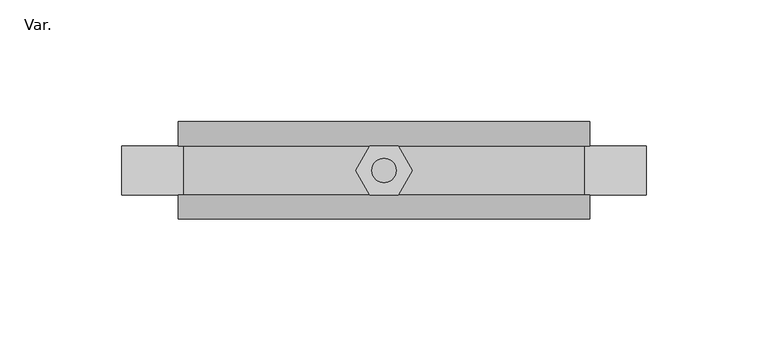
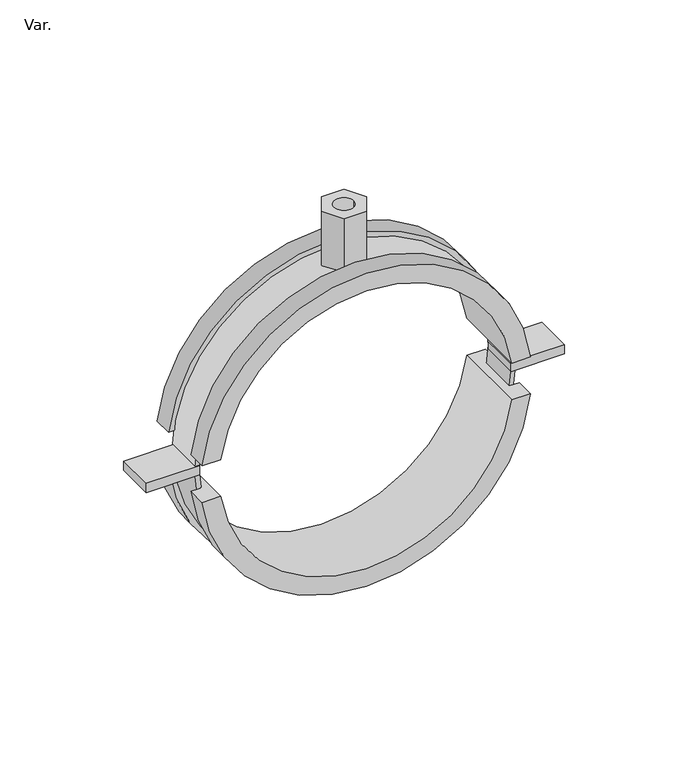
"""IFC4 building model written with IfcOpenShell, lengths in millimetres: pipe fitting geometry, AmancoWavin_ConexõesdeTubos_EsgotoSilentiumAbraçadeiraH_Ecoat : Var.."""

from ifc_helpers import new_model, si_unit, point, frame, origin, origin_2d, place, context, project, spatial, polyline, circle_curve, trimmed, segment, composite_curve, outline, extrude, source, transform, mapped, element, save
from ifc_brep_helpers import plane_surface, cylinder_surface, revolved_surface, advanced_brep


def var_25763102(model_context):
    return source(origin(), model_context, "Body", "SolidModel", [
        advanced_brep(
        [(74.8348181, 20.0, 10.0), (-74.8348181, 20.0, 10.0), (-84.4097151, 20.0, 10.0), (84.4097151, 20.0, 10.0), (74.8348181, -20.0, 10.0), (84.4097151, -20.0, 10.0), (-84.4097151, -20.0, 10.0), (-74.8348181, -20.0, 10.0), (-84.4097151, -10.0, 10.0), (-79.3725393, -10.0, 10.0), (-79.3725393, 10.0, 10.0), (-84.4097151, 10.0, 10.0), (84.4097151, 10.0, 10.0), (84.4097151, -10.0, 10.0), (79.3725393, 10.0, 10.0), (79.3725393, -10.0, 10.0)],
        [
            (0, 1, circle_curve(frame((0.0, 20.0, 0.0), z_axis=(0.0, -1.0, 0.0), x_axis=(-1.0, 0.0, 0.0)), 75.5)),
            (1, 2),
            (2, 3, circle_curve(frame((0.0, 20.0, 0.0), z_axis=(0.0, 1.0, 0.0), x_axis=(-1.0, 0.0, 0.0)), 85.0)),
            (3, 0),
            (4, 5),
            (5, 6, circle_curve(frame((0.0, -20.0, 0.0), z_axis=(0.0, -1.0, 0.0), x_axis=(-1.0, 0.0, 0.0)), 85.0)),
            (6, 7),
            (7, 4, circle_curve(frame((0.0, -20.0, 0.0), z_axis=(0.0, 1.0, 0.0), x_axis=(-1.0, 0.0, 0.0)), 75.5)),
            (0, 4),
            (7, 1),
            (6, 8),
            (8, 9),
            (9, 10),
            (10, 11),
            (11, 2),
            (11, 12, circle_curve(frame((0.0, 10.0, 0.0), z_axis=(0.0, 1.0, 0.0), x_axis=(-1.0, 0.0, 0.0)), 85.0)),
            (12, 3),
            (5, 13),
            (13, 8, circle_curve(frame((0.0, -10.0, 0.0), z_axis=(0.0, -1.0, 0.0), x_axis=(-1.0, 0.0, 0.0)), 85.0)),
            (12, 14),
            (14, 15),
            (15, 13),
            (15, 9, circle_curve(frame((0.0, -10.0, 0.0), z_axis=(0.0, -1.0, 0.0), x_axis=(1.0, 0.0, 0.0)), 80.0)),
            (10, 14, circle_curve(frame((0.0, 10.0, 0.0), z_axis=(0.0, 1.0, 0.0), x_axis=(1.0, 0.0, 0.0)), 80.0)),
        ],
        [
            plane_surface(frame((-75.5, 20.0, 0.0), z_axis=(0.0, 1.0, 0.0), x_axis=(0.0, 0.0, -1.0))),
            plane_surface(frame((-75.5, -20.0, 0.0), z_axis=(0.0, -1.0, 0.0), x_axis=(0.0, 0.0, 1.0))),
            revolved_surface(polyline([(-75.5, -20.0, 0.0), (-75.5, 20.0, 0.0)]), (0.0, -20.0, 0.0), (0.0, -1.0, 0.0)),
            plane_surface(frame((-74.8348181, 20.0, 10.0), z_axis=(0.0, 0.0, -1.0), x_axis=(0.0, -1.0, 0.0))),
            cylinder_surface(frame((0.0, -20.0, 0.0), z_axis=(0.0, 1.0, 0.0), x_axis=(-1.0, 0.0, 0.0)), 85.0),
            plane_surface(frame((84.4097151, 20.0, 10.0), z_axis=(0.0, 0.0, -1.0), x_axis=(0.0, -1.0, 0.0))),
            plane_surface(frame((85.0, -10.0, 0.0), z_axis=(0.0, 1.0, 0.0), x_axis=(0.0, 0.0, 1.0))),
            plane_surface(frame((85.0, 10.0, 0.0), z_axis=(0.0, -1.0, 0.0), x_axis=(0.0, 0.0, -1.0))),
            cylinder_surface(frame((0.0, 0.0, 0.0), z_axis=(0.0, 1.0, 0.0), x_axis=(1.0, 0.0, 0.0)), 80.0),
        ],
        [
            (0, [[1, 2, 3, 4]]),
            (1, [[5, 6, 7, 8]]),
            (2, [[-1, 9, -8, 10]]),
            (3, [[-2, -10, -7, 11, 12, 13, 14, 15]]),
            (4, [[-3, -15, 16, 17]]),
            (4, [[-6, 18, 19, -11]]),
            (5, [[-4, -17, 20, 21, 22, -18, -5, -9]]),
            (6, [[23, -12, -19, -22]]),
            (7, [[24, -20, -16, -14]]),
            (8, [[-23, -21, -24, -13]]),
        ],
    ),
        advanced_brep(
        [(-84.4097151, 20.0, -10.0), (-74.8348181, 20.0, -10.0), (74.8348181, 20.0, -10.0), (84.4097151, 20.0, -10.0), (-84.4097151, -20.0, -10.0), (84.4097151, -20.0, -10.0), (74.8348181, -20.0, -10.0), (-74.8348181, -20.0, -10.0), (-84.4097151, 10.0, -10.0), (-79.3725393, 10.0, -10.0), (-79.3725393, -10.0, -10.0), (-84.4097151, -10.0, -10.0), (84.4097151, -10.0, -10.0), (79.3725393, -10.0, -10.0), (79.3725393, 10.0, -10.0), (84.4097151, 10.0, -10.0)],
        [
            (0, 1),
            (1, 2, circle_curve(frame((0.0, 20.0, 0.0), z_axis=(0.0, -1.0, 0.0), x_axis=(-1.0, 0.0, 0.0)), 75.5)),
            (2, 3),
            (3, 0, circle_curve(frame((0.0, 20.0, 0.0), z_axis=(0.0, 1.0, 0.0), x_axis=(-1.0, 0.0, 0.0)), 85.0)),
            (4, 5, circle_curve(frame((0.0, -20.0, 0.0), z_axis=(0.0, -1.0, 0.0), x_axis=(-1.0, 0.0, 0.0)), 85.0)),
            (5, 6),
            (6, 7, circle_curve(frame((0.0, -20.0, 0.0), z_axis=(0.0, 1.0, 0.0), x_axis=(-1.0, 0.0, 0.0)), 75.5)),
            (7, 4),
            (0, 8),
            (8, 9),
            (9, 10),
            (10, 11),
            (11, 4),
            (7, 1),
            (6, 2),
            (5, 12),
            (12, 13),
            (13, 14),
            (14, 15),
            (15, 3),
            (15, 8, circle_curve(frame((0.0, 10.0, 0.0), z_axis=(0.0, 1.0, 0.0), x_axis=(-1.0, 0.0, 0.0)), 85.0)),
            (11, 12, circle_curve(frame((0.0, -10.0, 0.0), z_axis=(0.0, -1.0, 0.0), x_axis=(-1.0, 0.0, 0.0)), 85.0)),
            (10, 13, circle_curve(frame((0.0, -10.0, 0.0), z_axis=(0.0, -1.0, 0.0), x_axis=(1.0, 0.0, 0.0)), 80.0)),
            (14, 9, circle_curve(frame((0.0, 10.0, 0.0), z_axis=(0.0, 1.0, 0.0), x_axis=(1.0, 0.0, 0.0)), 80.0)),
        ],
        [
            plane_surface(frame((-75.5, 20.0, 0.0), z_axis=(0.0, 1.0, 0.0), x_axis=(0.0, 0.0, -1.0))),
            plane_surface(frame((-75.5, -20.0, 0.0), z_axis=(0.0, -1.0, 0.0), x_axis=(0.0, 0.0, 1.0))),
            plane_surface(frame((-84.4097151, 20.0, -10.0), z_axis=(0.0, 0.0, 1.0), x_axis=(0.0, -1.0, 0.0))),
            revolved_surface(polyline([(-75.5, -20.0, 0.0), (-75.5, 20.0, 0.0)]), (0.0, 0.0, 0.0), (0.0, -1.0, 0.0)),
            plane_surface(frame((74.8348181, 20.0, -10.0), z_axis=(0.0, 0.0, 1.0), x_axis=(0.0, -1.0, 0.0))),
            cylinder_surface(frame((0.0, 0.0, 0.0), z_axis=(0.0, 1.0, 0.0), x_axis=(-1.0, 0.0, 0.0)), 85.0),
            plane_surface(frame((85.0, -10.0, 0.0), z_axis=(0.0, 1.0, 0.0), x_axis=(0.0, 0.0, 1.0))),
            plane_surface(frame((85.0, 10.0, 0.0), z_axis=(0.0, -1.0, 0.0), x_axis=(0.0, 0.0, -1.0))),
            cylinder_surface(frame((0.0, 0.0, 0.0), z_axis=(0.0, 1.0, 0.0), x_axis=(1.0, 0.0, 0.0)), 80.0),
        ],
        [
            (0, [[1, 2, 3, 4]]),
            (1, [[5, 6, 7, 8]]),
            (2, [[-1, 9, 10, 11, 12, 13, -8, 14]]),
            (3, [[-2, -14, -7, 15]]),
            (4, [[-3, -15, -6, 16, 17, 18, 19, 20]]),
            (5, [[-4, -20, 21, -9]]),
            (5, [[-5, -13, 22, -16]]),
            (6, [[23, -17, -22, -12]]),
            (7, [[24, -10, -21, -19]]),
            (8, [[-23, -11, -24, -18]]),
        ],
    ),
        extrude(outline(polyline([(-11.5470054, 0.0), (-5.7735027, 10.0), (5.7735027, 10.0), (11.5470054, 0.0), (5.7735027, -10.0), (-5.7735027, -10.0), (-11.5470054, 0.0)]), holes=[composite_curve([segment(trimmed(circle_curve(origin_2d(), 5.0), [point((-5.0, 0.0))], [point((5.0, 0.0))], True, "CARTESIAN"), True, "CONTINUOUS"), segment(trimmed(circle_curve(origin_2d(), 5.0), [point((5.0, 0.0))], [point((-5.0, 0.0))], True, "CARTESIAN"), True, "CONTINUOUS")], self_intersect=False)]), frame((0.0, 0.0, 80.5), z_axis=(0.0, 0.0, 1.0), x_axis=(1.0, 0.0, 0.0)), (0.0, 0.0, 1.0), 30.0),
        extrude(outline(polyline([(-80.0, -10.0), (-107.53, -10.0), (-107.53, 10.0), (-80.0, 10.0), (-80.0, -10.0)])), frame((0.0, 0.0, -2.5), z_axis=(0.0, 0.0, 1.0), x_axis=(1.0, 0.0, 0.0)), (0.0, 0.0, 1.0), 5.0),
        extrude(outline(polyline([(107.53, -10.0), (80.0, -10.0), (80.0, 10.0), (107.53, 10.0), (107.53, -10.0)])), frame((0.0, 0.0, -2.5), z_axis=(0.0, 0.0, 1.0), x_axis=(1.0, 0.0, 0.0)), (0.0, 0.0, 1.0), 5.0),
        extrude(outline(composite_curve([segment(trimmed(circle_curve(origin_2d(), 82.5), [point((0.0, -82.5))], [point((0.0, 82.5))], False, "CARTESIAN"), True, "CONTINUOUS"), segment(trimmed(circle_curve(origin_2d(), 82.5), [point((0.0, 82.5))], [point((0.0, -82.5))], False, "CARTESIAN"), True, "CONTINUOUS")], self_intersect=False), holes=[composite_curve([segment(trimmed(circle_curve(origin_2d(), 80.0), [point((0.0, -80.0))], [point((0.0, 80.0))], True, "CARTESIAN"), True, "CONTINUOUS"), segment(trimmed(circle_curve(origin_2d(), 80.0), [point((0.0, 80.0))], [point((0.0, -80.0))], True, "CARTESIAN"), True, "CONTINUOUS")], self_intersect=False)]), frame((0.0, -10.0, 0.0), z_axis=(0.0, 1.0, 0.0), x_axis=(0.0, 0.0, 1.0)), (0.0, 0.0, 1.0), 20.0),
    ])


if __name__ == "__main__":
    model = new_model("IFC4")
    model_context = context("Model", 3, world=origin())
    ifc_project = project(units=[si_unit("LENGTHUNIT", "METRE", prefix="MILLI")], contexts=[model_context])
    site = spatial("IfcSite", under=ifc_project)
    building = spatial("IfcBuilding", under=site)
    placement = place(None, origin())
    var_shape = var_25763102(model_context)
    element("IfcPipeFitting", 1, ObjectType="AmancoWavin_ConexõesdeTubos_EsgotoSilentiumAbraçadeiraH_Ecoat : Var.", at=placement, inside=building, context=model_context, shape_type="MappedRepresentation", body=[
        mapped(var_shape, transform((0.0, 0.0, 0.0), x_axis=(1.0, 0.0, 0.0), y_axis=(0.0, 1.0, 0.0), z_axis=(0.0, 0.0, 1.0))),
    ])
    save(model, "model.ifc")
